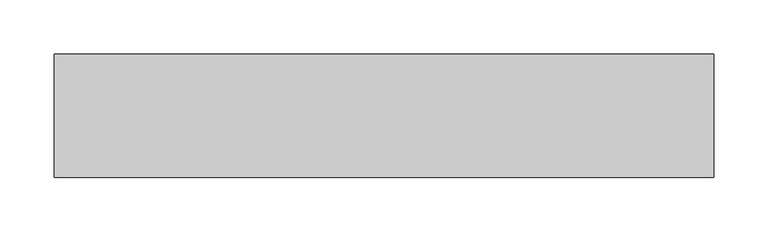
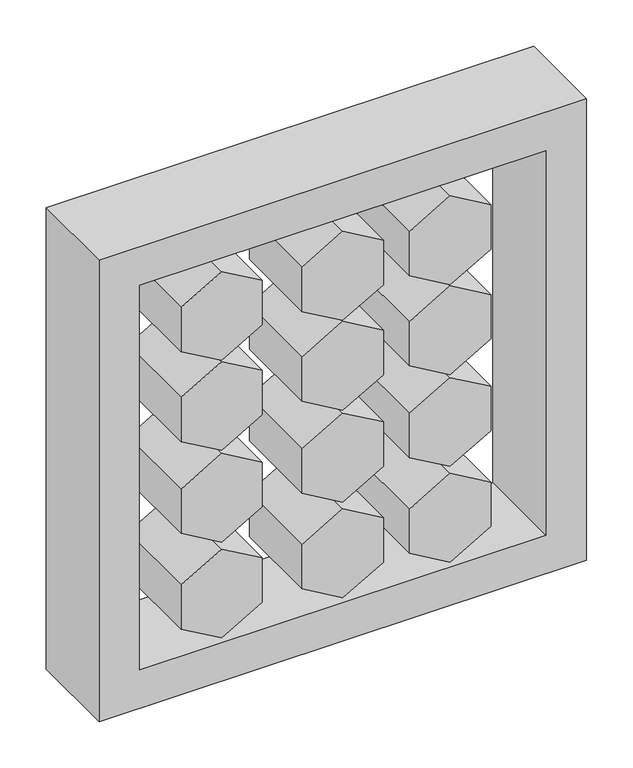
"""IFC4 building model written with IfcOpenShell, lengths in millimetres: proxy geometry, stone jhali : stone jhali."""

from ifc_helpers import new_model, si_unit, frame, origin, place, context, project, spatial, polyline, outline, extrude, source, transform, mapped, element, save


def generic_models_3ce4d895(model_context):
    return source(origin(), model_context, "Body", "SweptSolid", [
        extrude(outline(polyline([(-304.8, -304.8), (-304.8, 304.8), (304.8, 304.8), (304.8, -304.8), (-304.8, -304.8)]), holes=[polyline([(254.0, 254.0), (-254.0, 254.0), (-254.0, -254.0), (254.0, -254.0), (254.0, 254.0)])]), frame((0.0, -114.3, 0.0), z_axis=(0.0, 1.0, 0.0), x_axis=(0.0, 0.0, 1.0)), (0.0, 0.0, 1.0), 114.3),
        extrude(outline(polyline([(206.8119014, -202.3622907), (148.153114, -202.3622907), (118.8237204, -151.5622907), (148.153114, -100.7622907), (206.8119014, -100.7622907), (236.1412951, -151.5622907), (206.8119014, -202.3622907)])), frame((0.0, -114.3, 0.0), z_axis=(0.0, 1.0, 0.0), x_axis=(0.0, 0.0, 1.0)), (0.0, 0.0, 1.0), 114.3),
        extrude(outline(polyline([(206.8119014, -50.8), (148.153114, -50.8), (118.8237204, 0.0), (148.153114, 50.8), (206.8119014, 50.8), (236.1412951, 0.0), (206.8119014, -50.8)])), frame((0.0, -114.3, 0.0), z_axis=(0.0, 1.0, 0.0), x_axis=(0.0, 0.0, 1.0)), (0.0, 0.0, 1.0), 114.3),
        extrude(outline(polyline([(206.8119014, 83.3877093), (148.153114, 83.3877093), (118.8237204, 134.1877093), (148.153114, 184.9877093), (206.8119014, 184.9877093), (236.1412951, 134.1877093), (206.8119014, 83.3877093)])), frame((0.0, -114.3, 0.0), z_axis=(0.0, 1.0, 0.0), x_axis=(0.0, 0.0, 1.0)), (0.0, 0.0, 1.0), 114.3),
        extrude(outline(polyline([(87.988181, -202.3622907), (29.3293937, -202.3622907), (0.0, -151.5622907), (29.3293937, -100.7622907), (87.988181, -100.7622907), (117.3175747, -151.5622907), (87.988181, -202.3622907)])), frame((0.0, -114.3, 0.0), z_axis=(0.0, 1.0, 0.0), x_axis=(0.0, 0.0, 1.0)), (0.0, 0.0, 1.0), 114.3),
        extrude(outline(polyline([(87.988181, -50.8), (29.3293937, -50.8), (0.0, 0.0), (29.3293937, 50.8), (87.988181, 50.8), (117.3175747, 0.0), (87.988181, -50.8)])), frame((0.0, -114.3, 0.0), z_axis=(0.0, 1.0, 0.0), x_axis=(0.0, 0.0, 1.0)), (0.0, 0.0, 1.0), 114.3),
        extrude(outline(polyline([(87.988181, 83.3877093), (29.3293937, 83.3877093), (0.0, 134.1877093), (29.3293937, 184.9877093), (87.988181, 184.9877093), (117.3175747, 134.1877093), (87.988181, 83.3877093)])), frame((0.0, -114.3, 0.0), z_axis=(0.0, 1.0, 0.0), x_axis=(0.0, 0.0, 1.0)), (0.0, 0.0, 1.0), 114.3),
        extrude(outline(polyline([(-33.2587873, -202.3622907), (-91.9175747, -202.3622907), (-121.2469684, -151.5622907), (-91.9175747, -100.7622907), (-33.2587873, -100.7622907), (-3.9293937, -151.5622907), (-33.2587873, -202.3622907)])), frame((0.0, -114.3, 0.0), z_axis=(0.0, 1.0, 0.0), x_axis=(0.0, 0.0, 1.0)), (0.0, 0.0, 1.0), 114.3),
        extrude(outline(polyline([(-33.2587873, -50.8), (-91.9175747, -50.8), (-121.2469684, 0.0), (-91.9175747, 50.8), (-33.2587873, 50.8), (-3.9293937, 0.0), (-33.2587873, -50.8)])), frame((0.0, -114.3, 0.0), z_axis=(0.0, 1.0, 0.0), x_axis=(0.0, 0.0, 1.0)), (0.0, 0.0, 1.0), 114.3),
        extrude(outline(polyline([(-33.2587873, 83.3877093), (-91.9175747, 83.3877093), (-121.2469684, 134.1877093), (-91.9175747, 184.9877093), (-33.2587873, 184.9877093), (-3.9293937, 134.1877093), (-33.2587873, 83.3877093)])), frame((0.0, -114.3, 0.0), z_axis=(0.0, 1.0, 0.0), x_axis=(0.0, 0.0, 1.0)), (0.0, 0.0, 1.0), 114.3),
        extrude(outline(polyline([(-159.661819, -202.3622907), (-218.3206063, -202.3622907), (-247.65, -151.5622907), (-218.3206063, -100.7622907), (-159.661819, -100.7622907), (-130.3324253, -151.5622907), (-159.661819, -202.3622907)])), frame((0.0, -114.3, 0.0), z_axis=(0.0, 1.0, 0.0), x_axis=(0.0, 0.0, 1.0)), (0.0, 0.0, 1.0), 114.3),
        extrude(outline(polyline([(-159.661819, -50.8), (-218.3206063, -50.8), (-247.65, 0.0), (-218.3206063, 50.8), (-159.661819, 50.8), (-130.3324253, 0.0), (-159.661819, -50.8)])), frame((0.0, -114.3, 0.0), z_axis=(0.0, 1.0, 0.0), x_axis=(0.0, 0.0, 1.0)), (0.0, 0.0, 1.0), 114.3),
        extrude(outline(polyline([(-159.661819, 83.3877093), (-218.3206063, 83.3877093), (-247.65, 134.1877093), (-218.3206063, 184.9877093), (-159.661819, 184.9877093), (-130.3324253, 134.1877093), (-159.661819, 83.3877093)])), frame((0.0, -114.3, 0.0), z_axis=(0.0, 1.0, 0.0), x_axis=(0.0, 0.0, 1.0)), (0.0, 0.0, 1.0), 114.3),
    ])


if __name__ == "__main__":
    model = new_model("IFC4")
    model_context = context("Model", 3, world=origin())
    ifc_project = project(units=[si_unit("LENGTHUNIT", "METRE", prefix="MILLI")], contexts=[model_context])
    site = spatial("IfcSite", under=ifc_project)
    building = spatial("IfcBuilding", under=site)
    placement = place(None, origin())
    generic_models_shape = generic_models_3ce4d895(model_context)
    element("IfcBuildingElementProxy", 1, Name="stone jhali : stone jhali", ObjectType="stone jhali : stone jhali", at=placement, inside=building, context=model_context, shape_type="MappedRepresentation", body=[
        mapped(generic_models_shape, transform((0.0, 0.0, 0.0), x_axis=(1.0, 0.0, 0.0), y_axis=(0.0, 1.0, 0.0), z_axis=(0.0, 0.0, 1.0))),
    ])
    save(model, "model.ifc")
